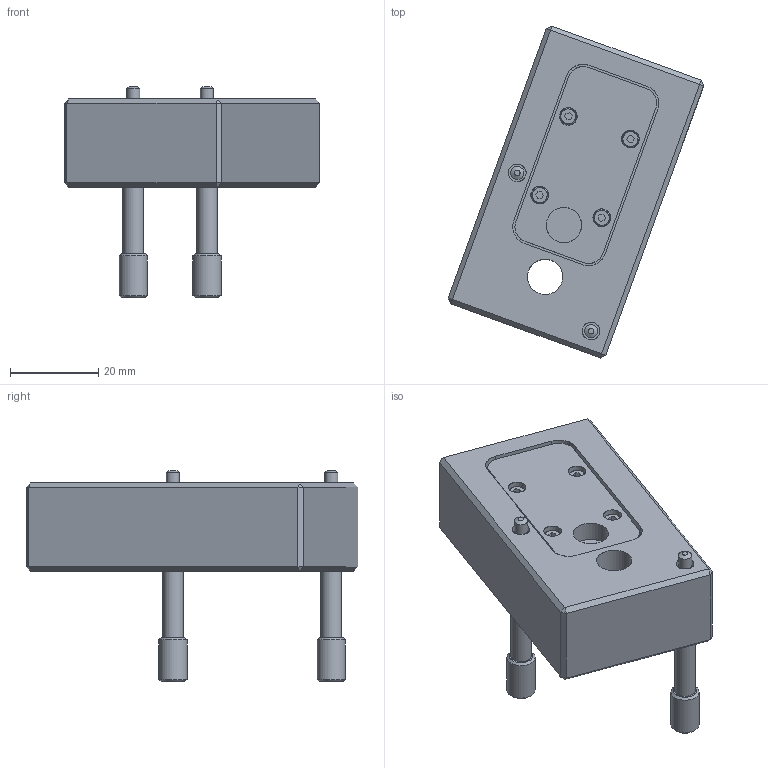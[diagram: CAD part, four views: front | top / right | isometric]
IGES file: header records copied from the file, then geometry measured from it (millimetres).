
Global section: file name: Y:\_LCPD Drawings\13.1 Lightweight Models\8003\LA-8003-2061 LONG RANGE  RETROREFLECTOR\LA_8003_2039_A2.igs; native system: NX V7.5; preprocessor: SIEMENS PLM Software NX 7.5; date: 20120510.115329; units: millimetre
Bounding box: 57.94 x 75.27 x 48 mm (x, y, z)
Surface area: 13096.9 mm2 (no closed solid volume)
Topology: 0 solids, 0 shells, 595 faces, 3445 edges, 3394 vertices
Faces by surface type: bspline 533, revolution 62
